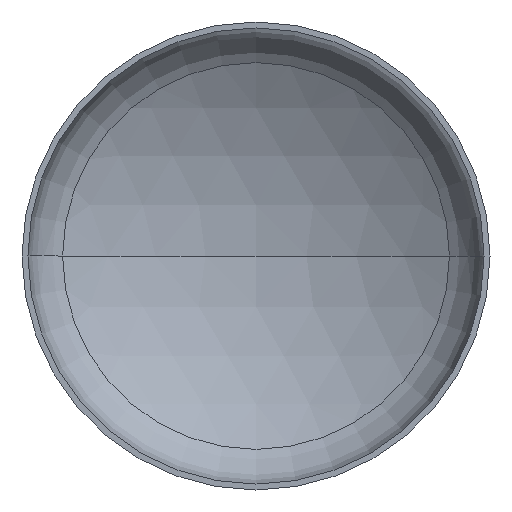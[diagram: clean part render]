
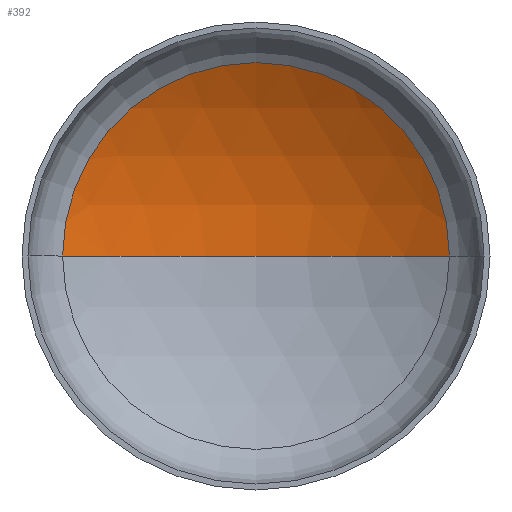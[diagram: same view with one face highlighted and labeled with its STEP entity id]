
A CAD part, front view. The second image highlights one B-rep face of the part: STEP entity #392.
In plain terms, the highlighted spherical face has radius 2400 mm.
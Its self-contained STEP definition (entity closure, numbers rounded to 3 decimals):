
#3 = ORIENTED_EDGE ( 'NONE', *, *, #131, .T. ) ;
#7 = VERTEX_POINT ( 'NONE', #382 ) ;
#12 = ORIENTED_EDGE ( 'NONE', *, *, #357, .F. ) ;
#14 = AXIS2_PLACEMENT_3D ( 'NONE', #234, #333, #334 ) ;
#25 = EDGE_LOOP ( 'NONE', ( #12, #67, #3 ) ) ;
#49 = VERTEX_POINT ( 'NONE', #404 ) ;
#51 = DIRECTION ( 'NONE',  ( 0., -1., 0. ) ) ;
#63 = AXIS2_PLACEMENT_3D ( 'NONE', #281, #276, #275 ) ;
#65 = AXIS2_PLACEMENT_3D ( 'NONE', #148, #51, #366 ) ;
#67 = ORIENTED_EDGE ( 'NONE', *, *, #139, .T. ) ;
#119 = VERTEX_POINT ( 'NONE', #384 ) ;
#131 = EDGE_CURVE ( 'NONE', #49, #119, #177, .T. ) ;
#139 = EDGE_CURVE ( 'NONE', #7, #49, #364, .T. ) ;
#148 = CARTESIAN_POINT ( 'NONE',  ( 0., 513.894, 0. ) ) ;
#177 = CIRCLE ( 'NONE', #65, 1239.588 ) ;
#217 = CARTESIAN_POINT ( 'NONE',  ( 0., -1541.203, 0. ) ) ;
#234 = CARTESIAN_POINT ( 'NONE',  ( 0., -1541.203, 0. ) ) ;
#264 = AXIS2_PLACEMENT_3D ( 'NONE', #217, #315, #283 ) ;
#272 = CIRCLE ( 'NONE', #14, 2400. ) ;
#275 = DIRECTION ( 'NONE',  ( -1., 0., 0. ) ) ;
#276 = DIRECTION ( 'NONE',  ( 0., 0., -1. ) ) ;
#281 = CARTESIAN_POINT ( 'NONE',  ( 0., -1541.203, 0. ) ) ;
#283 = DIRECTION ( 'NONE',  ( -1., 0., 0. ) ) ;
#315 = DIRECTION ( 'NONE',  ( 0., 0., -1. ) ) ;
#330 = FACE_OUTER_BOUND ( 'NONE', #25, .T. ) ;
#333 = DIRECTION ( 'NONE',  ( 0., 0., 1. ) ) ;
#334 = DIRECTION ( 'NONE',  ( 1., 0., 0. ) ) ;
#357 = EDGE_CURVE ( 'NONE', #7, #119, #272, .T. ) ;
#364 = CIRCLE ( 'NONE', #63, 2400. ) ;
#366 = DIRECTION ( 'NONE',  ( 1., 0., 0. ) ) ;
#382 = CARTESIAN_POINT ( 'NONE',  ( 0., 858.797, 0. ) ) ;
#383 = SPHERICAL_SURFACE ( 'NONE', #264, 2400. ) ;
#384 = CARTESIAN_POINT ( 'NONE',  ( -1239.588, 513.894, 0. ) ) ;
#392 = ADVANCED_FACE ( 'NONE', ( #330 ), #383, .F. ) ;
#404 = CARTESIAN_POINT ( 'NONE',  ( 1239.588, 513.894, 0. ) ) ;
